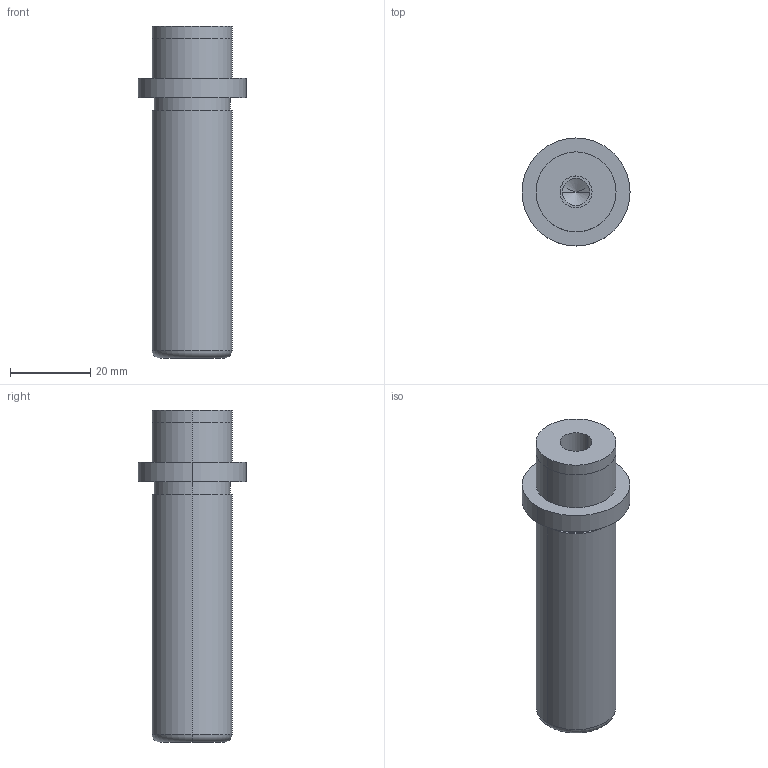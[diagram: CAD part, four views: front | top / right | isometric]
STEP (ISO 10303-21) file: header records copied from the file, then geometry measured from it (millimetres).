
FILE_DESCRIPTION(/* description */ (''),/* implementation_level */ '2;1');
FILE_NAME(/* name */ '3d_sgpw20-70_05266_r00.stp',/* time_stamp */ '2011-01-10T14:11:04+09:00',/* author */ ('MISUMI'),/* organization */ (''),/* preprocessor_version */ 'ST-DEVELOPER v11',/* originating_system */ 'UGS - NX 5.0',/* authorisation */ '');
FILE_SCHEMA (('CONFIG_CONTROL_DESIGN'));
Length unit declared in the file: millimetre
Products named in the file (1): 3d_sgpw20-70_05266_r00
Bounding box: 27 x 27 x 83 mm (x, y, z)
Volume: 25221.4 mm3; surface area: 7467.7 mm2
Topology: 1 solids, 1 shells, 31 faces, 64 edges, 38 vertices
Faces by surface type: cylinder 18, plane 7, cone 4, torus 2
Entity records: 890 total; most frequent: DIRECTION 162, CARTESIAN_POINT 130, ORIENTED_EDGE 120, AXIS2_PLACEMENT_3D 70, EDGE_CURVE 60, EDGE_LOOP 38, CIRCLE 38, VERTEX_POINT 38
